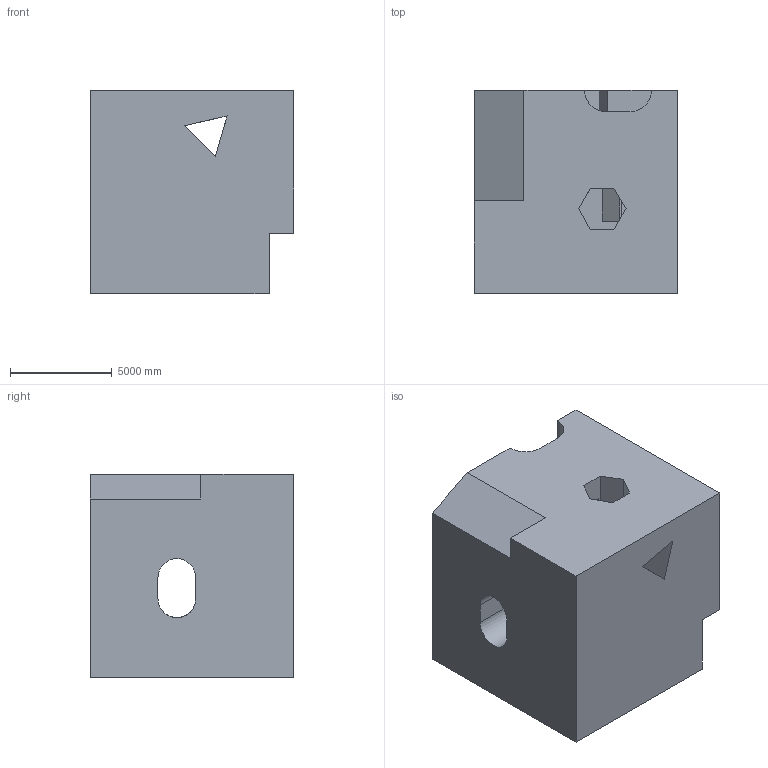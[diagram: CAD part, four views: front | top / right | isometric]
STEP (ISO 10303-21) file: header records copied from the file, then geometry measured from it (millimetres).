
FILE_DESCRIPTION (( 'STEP AP203' ), '1' );
FILE_NAME ('669.STEP', '2022-07-29T12:25:12', ( 'user' ), ( '' ), 'SwSTEP 2.0', 'SolidWorks 2021', '' );
FILE_SCHEMA (( 'CONFIG_CONTROL_DESIGN' ));
Length unit declared in the file: centimetre
Products named in the file (1): 669
Bounding box: 10000 x 10000 x 10000 mm (x, y, z)
Volume: 860116573537.5 mm3; surface area: 760779088.2 mm2
Topology: 1 solids, 1 shells, 40 faces, 135 edges, 90 vertices
Faces by surface type: plane 35, cylinder 5
Entity records: 1551 total; most frequent: CARTESIAN_POINT 287, ORIENTED_EDGE 270, DIRECTION 221, EDGE_CURVE 135, LINE 117, VECTOR 117, VERTEX_POINT 90, AXIS2_PLACEMENT_3D 52
